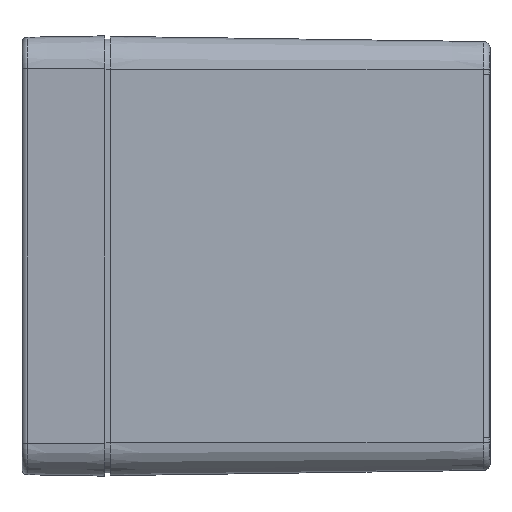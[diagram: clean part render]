
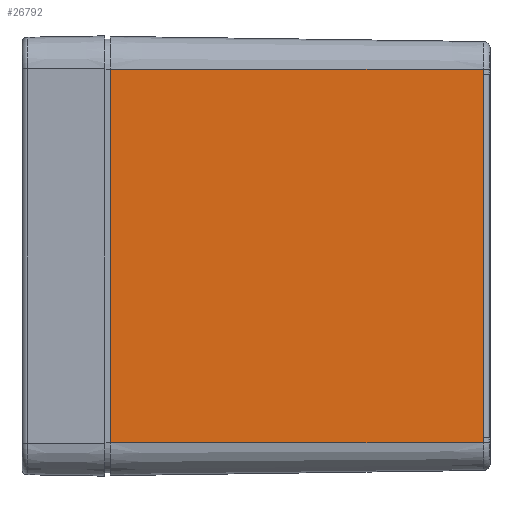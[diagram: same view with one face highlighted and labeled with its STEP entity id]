
A CAD part, left-side view. The second image highlights one B-rep face of the part: STEP entity #26792.
In plain terms, the highlighted planar face has unit normal (-1, -0.014, 0).
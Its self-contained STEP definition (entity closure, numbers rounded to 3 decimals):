
#55 = CARTESIAN_POINT ( 'NONE',  ( -59.038, -68.869, -33.455 ) ) ;
#382 = VECTOR ( 'NONE', #45963, 1000. ) ;
#943 = CARTESIAN_POINT ( 'NONE',  ( -59.038, -68.867, 34. ) ) ;
#950 = VECTOR ( 'NONE', #47206, 1000. ) ;
#3281 = EDGE_LOOP ( 'NONE', ( #44861, #30482, #26268, #25479, #42892, #46058 ) ) ;
#4152 = LINE ( 'NONE', #943, #30201 ) ;
#4234 = CARTESIAN_POINT ( 'NONE',  ( -59.986, -1., -34. ) ) ;
#6276 = CARTESIAN_POINT ( 'NONE',  ( -59.038, -68.867, -33.11 ) ) ;
#6281 = LINE ( 'NONE', #44266, #950 ) ;
#6392 = EDGE_CURVE ( 'NONE', #43594, #38314, #29560, .T. ) ;
#7380 = LINE ( 'NONE', #44868, #29862 ) ;
#8361 = CARTESIAN_POINT ( 'NONE',  ( -59.038, -68.868, 33.147 ) ) ;
#11105 = CARTESIAN_POINT ( 'NONE',  ( -59.038, -68.868, -33.147 ) ) ;
#12118 = PLANE ( 'NONE',  #37091 ) ;
#13626 = EDGE_CURVE ( 'NONE', #43594, #34770, #27367, .T. ) ;
#15017 = CARTESIAN_POINT ( 'NONE',  ( -59.038, -68.868, -33.183 ) ) ;
#15093 = DIRECTION ( 'NONE',  ( -1., -0.014, 0. ) ) ;
#16208 = CARTESIAN_POINT ( 'NONE',  ( -59.038, -68.867, 33.11 ) ) ;
#16359 = CARTESIAN_POINT ( 'NONE',  ( -59.038, -68.872, -34. ) ) ;
#16811 = CARTESIAN_POINT ( 'NONE',  ( -59.038, -68.872, 34. ) ) ;
#17555 = CARTESIAN_POINT ( 'NONE',  ( -59.038, -68.867, -33.074 ) ) ;
#18367 = VERTEX_POINT ( 'NONE', #47541 ) ;
#18460 = CARTESIAN_POINT ( 'NONE',  ( -59.038, -68.872, -34. ) ) ;
#19485 = CARTESIAN_POINT ( 'NONE',  ( -60., 0., 34. ) ) ;
#19750 = B_SPLINE_CURVE_WITH_KNOTS ( 'NONE', 3,
 ( #42681, #16208, #8361, #19882, #30695, #34842, #46338 ),
 .UNSPECIFIED., .F., .F.,
 ( 4, 3, 4 ),
 ( 0., 0., 0.001 ),
 .UNSPECIFIED. ) ;
#19882 = CARTESIAN_POINT ( 'NONE',  ( -59.038, -68.868, 33.183 ) ) ;
#21855 = DIRECTION ( 'NONE',  ( -0.014, 1., 0. ) ) ;
#22827 = VERTEX_POINT ( 'NONE', #16811 ) ;
#23690 = CARTESIAN_POINT ( 'NONE',  ( -60., 0., -34. ) ) ;
#25479 = ORIENTED_EDGE ( 'NONE', *, *, #6392, .T. ) ;
#25592 = EDGE_CURVE ( 'NONE', #18367, #34770, #6281, .T. ) ;
#26268 = ORIENTED_EDGE ( 'NONE', *, *, #13626, .F. ) ;
#26613 = DIRECTION ( 'NONE',  ( 0.014, -1., 0. ) ) ;
#26792 = ADVANCED_FACE ( 'NONE', ( #30779 ), #12118, .T. ) ;
#27367 = LINE ( 'NONE', #23690, #382 ) ;
#29560 = B_SPLINE_CURVE_WITH_KNOTS ( 'NONE', 3,
 ( #18460, #33673, #55, #15017, #11105, #6276, #17555 ),
 .UNSPECIFIED., .F., .F.,
 ( 4, 3, 4 ),
 ( 0., 0.001, 0.001 ),
 .UNSPECIFIED. ) ;
#29862 = VECTOR ( 'NONE', #21855, 1000. ) ;
#30201 = VECTOR ( 'NONE', #31386, 1000. ) ;
#30482 = ORIENTED_EDGE ( 'NONE', *, *, #25592, .T. ) ;
#30695 = CARTESIAN_POINT ( 'NONE',  ( -59.038, -68.869, 33.455 ) ) ;
#30779 = FACE_OUTER_BOUND ( 'NONE', #3281, .T. ) ;
#31386 = DIRECTION ( 'NONE',  ( 0., 0., 1. ) ) ;
#33673 = CARTESIAN_POINT ( 'NONE',  ( -59.038, -68.872, -33.728 ) ) ;
#33944 = CARTESIAN_POINT ( 'NONE',  ( -59.038, -68.867, 33.074 ) ) ;
#34666 = VERTEX_POINT ( 'NONE', #33944 ) ;
#34770 = VERTEX_POINT ( 'NONE', #4234 ) ;
#34842 = CARTESIAN_POINT ( 'NONE',  ( -59.038, -68.872, 33.728 ) ) ;
#36178 = CARTESIAN_POINT ( 'NONE',  ( -59.038, -68.867, -33.074 ) ) ;
#37091 = AXIS2_PLACEMENT_3D ( 'NONE', #19485, #15093, #26613 ) ;
#38314 = VERTEX_POINT ( 'NONE', #36178 ) ;
#42127 = EDGE_CURVE ( 'NONE', #22827, #18367, #7380, .T. ) ;
#42681 = CARTESIAN_POINT ( 'NONE',  ( -59.038, -68.867, 33.074 ) ) ;
#42892 = ORIENTED_EDGE ( 'NONE', *, *, #44457, .T. ) ;
#43594 = VERTEX_POINT ( 'NONE', #16359 ) ;
#44266 = CARTESIAN_POINT ( 'NONE',  ( -59.986, -1., 34. ) ) ;
#44457 = EDGE_CURVE ( 'NONE', #38314, #34666, #4152, .T. ) ;
#44861 = ORIENTED_EDGE ( 'NONE', *, *, #42127, .T. ) ;
#44868 = CARTESIAN_POINT ( 'NONE',  ( -60., 0., 34. ) ) ;
#45963 = DIRECTION ( 'NONE',  ( -0.014, 1., 0. ) ) ;
#46058 = ORIENTED_EDGE ( 'NONE', *, *, #48451, .T. ) ;
#46338 = CARTESIAN_POINT ( 'NONE',  ( -59.038, -68.872, 34. ) ) ;
#47206 = DIRECTION ( 'NONE',  ( 0., 0., -1. ) ) ;
#47541 = CARTESIAN_POINT ( 'NONE',  ( -59.986, -1., 34. ) ) ;
#48451 = EDGE_CURVE ( 'NONE', #34666, #22827, #19750, .T. ) ;
